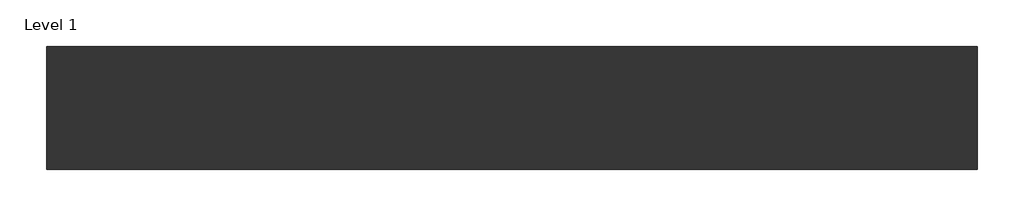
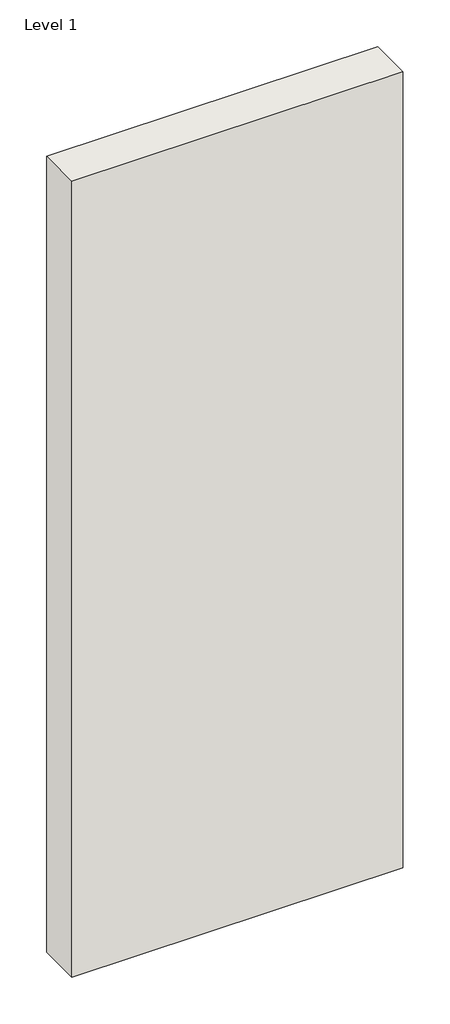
# One storey: 1 wall.
"""IFC4 building model written with IfcOpenShell, lengths in millimetres."""

from ifc_helpers import new_model, si_unit, origin, origin_with_axes, place, context, project, spatial, polyline, outline, extrude, element, save

model = new_model("IFC4")

# Units and contexts
model_context = context("Model", 3, world=origin())
ifc_project = project(units=[si_unit("LENGTHUNIT", "METRE", prefix="MILLI")], contexts=[model_context])

# Site, building, storey
site = spatial("IfcSite", under=ifc_project)
building = spatial("IfcBuilding", under=site)
storey = spatial("IfcBuildingStorey", under=building, Name="Level 1", Elevation=0.0)

# Wall
placement = place(None, origin())
element("IfcWall", 1, ObjectType="Tabique Doble – Placo® 158(48) 2xBA13 + 48LM + BA13 + 48LM + 2xBA13 c/400 - 59,1 dBA", at=placement, inside=storey, context=model_context, shape_type="SweptSolid", body=[
    extrude(outline(polyline([(-27296.4711674, -82294.1470389), (-28496.4711674, -82294.1470389), (-28496.4711674, -82135.6470389), (-27296.4711674, -82135.6470389), (-27296.4711674, -82294.1470389)])), origin_with_axes(), (0.0, 0.0, 1.0), 3050.0),
])

save(model, "model.ifc")
